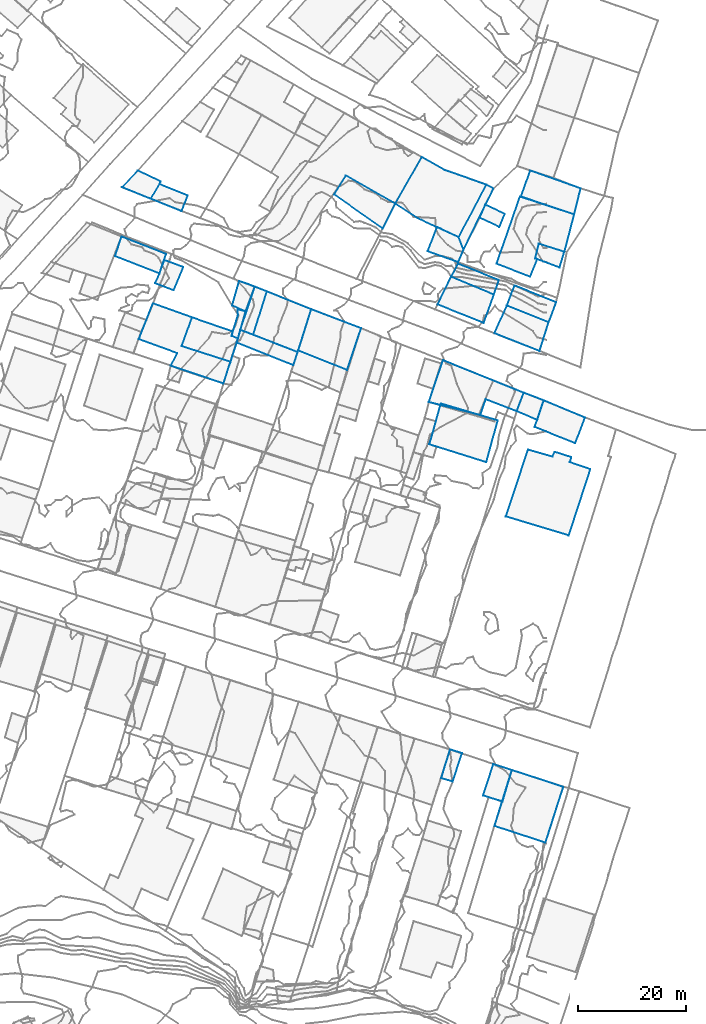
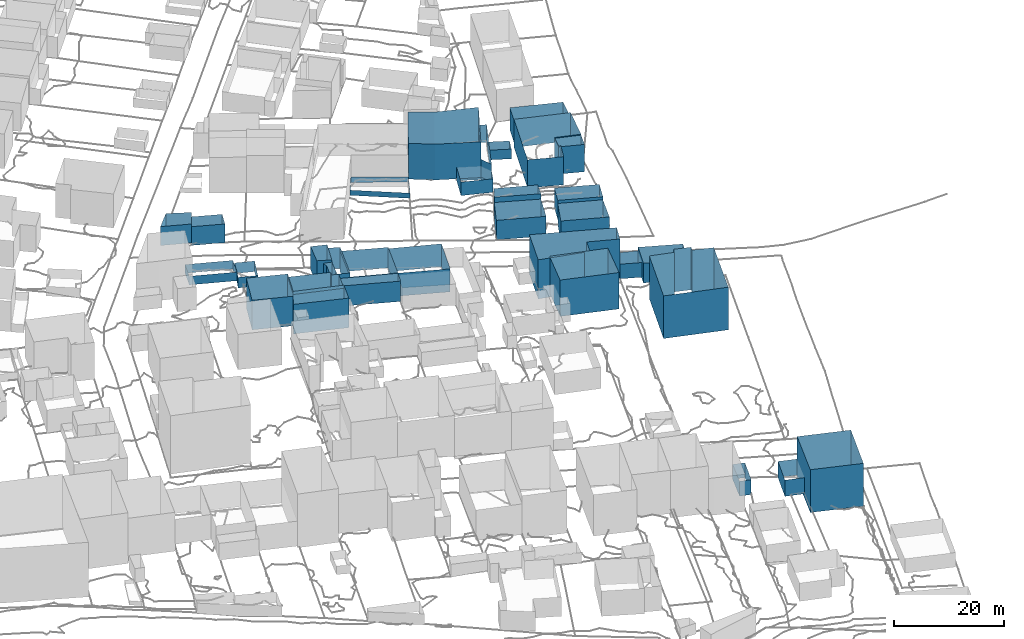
# Not in any storey, part 41 of 419: 32 walls.
"""IFC2X3 model written with IfcOpenShell, lengths in metres."""

from ifc_helpers import new_model, si_unit, frame, origin_with_axes, place, context, subcontext, project, faceted_brep, element, save


model = new_model("IFC2X3")

# Units and contexts
model_context = context("Model", 3, precision=1e-05, world=origin_with_axes())
body_context = subcontext(model_context, "Body", "Model", "MODEL_VIEW")
ifc_project = project(units=[si_unit("AREAUNIT", "SQUARE_METRE"), si_unit("LENGTHUNIT", "METRE")], contexts=[model_context])

# Walls
wall_1_placement = place(None, frame((909.2920204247, 193.2976909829, 76.31900177), z_axis=(0.0, 0.0, 1.0), x_axis=(1.0, 0.0, 0.0)))
element("IfcWall", 1, at=wall_1_placement, Name="Mur 0", context=body_context, shape_type="Brep", body=[
    faceted_brep([(0.0, 0.0, 5.68099823), (1.9, 5.2999999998, 5.68099823), (0.0, 0.0, 0.0), (1.9, 5.2999999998, 0.0), (9.0, -2.9000000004, 5.68099823), (9.0, -2.9000000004, 0.0), (10.4, 1.3999999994, 5.68099823), (10.4, 1.3999999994, 0.0), (9.2000000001, 1.8999999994, 5.68099823), (9.2000000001, 1.8999999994, 0.0), (9.4, 2.6999999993, 5.68099823), (9.4, 2.6999999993, 0.0)], [[[0, 1, 2]], [[2, 1, 3]], [[4, 0, 5]], [[5, 0, 2]], [[6, 4, 7]], [[7, 4, 5]], [[8, 6, 9]], [[9, 6, 7]], [[1, 10, 3]], [[3, 10, 11]], [[10, 8, 11]], [[11, 8, 9]]]),
])
wall_2_placement = place(None, frame((898.2920204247, 222.5976909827, 78.9779991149), z_axis=(0.0, 0.0, 1.0), x_axis=(1.0, 0.0, 0.0)))
element("IfcWall", 2, at=wall_2_placement, Name="Mur 0", context=body_context, shape_type="Brep", body=[
    faceted_brep([(7.1000000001, 1.0999999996, 4.2220008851), (6.9, 0.5999999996, 4.2220008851), (7.1000000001, 1.0999999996, 0.0), (6.9, 0.5999999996, 0.0), (2.9, 3.0999999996, 4.2220008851), (2.9, 3.0999999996, 0.0), (0.0, 0.0, 4.2220008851), (0.0, 0.0, 0.0), (5.3, -2.1000000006, 4.2220008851), (5.3, -2.1000000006, 0.0)], [[[0, 1, 2]], [[2, 1, 3]], [[4, 0, 5]], [[5, 0, 2]], [[6, 4, 7]], [[7, 4, 5]], [[1, 8, 3]], [[3, 8, 9]], [[8, 6, 9]], [[9, 6, 7]]]),
])
wall_3_placement = place(None, frame((903.5920204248, 220.4976909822, 78.4268002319), z_axis=(0.0, 0.0, 1.0), x_axis=(1.0, 0.0, 0.0)))
element("IfcWall", 3, at=wall_3_placement, Name="Mur 0", context=body_context, shape_type="Brep", body=[
    faceted_brep([(6.8, 0.6000000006, 4.1731997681), (5.7, -2.2999999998, 4.1731997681), (6.8, 0.6000000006, 0.0), (5.7, -2.2999999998, 0.0), (1.6, 2.7000000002, 4.1731997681), (1.6, 2.7000000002, 0.0), (0.0, 0.0, 4.1731997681), (0.0, 0.0, 0.0)], [[[0, 1, 2]], [[2, 1, 3]], [[4, 0, 5]], [[5, 0, 2]], [[1, 6, 3]], [[3, 6, 7]], [[6, 4, 7]], [[7, 4, 5]]]),
])
wall_4_placement = place(None, frame((930.7920204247, 192.4976909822, 74.588999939), z_axis=(0.0, 0.0, 1.0), x_axis=(1.0, 0.0, 0.0)))
element("IfcWall", 4, at=wall_4_placement, Name="Mur 0", context=body_context, shape_type="Brep", body=[
    faceted_brep([(0.0, 0.0, 5.111000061), (2.4, 7.6000000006, 5.111000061), (0.0, 0.0, 0.0), (2.4, 7.6000000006, 0.0), (9.0, -3.5999999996, 5.111000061), (9.0, -3.5999999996, 0.0), (11.6000000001, 4.1000000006, 5.111000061), (11.6000000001, 4.1000000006, 0.0)], [[[0, 1, 2]], [[2, 1, 3]], [[4, 0, 5]], [[5, 0, 2]], [[1, 6, 3]], [[3, 6, 7]], [[6, 4, 7]], [[7, 4, 5]]]),
])
wall_5_placement = place(None, frame((937.3920204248, 221.2976909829, 77.2576004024), z_axis=(0.0, 0.0, 1.0), x_axis=(1.0, 0.0, 0.0)))
element("IfcWall", 5, at=wall_5_placement, Name="Mur 0", context=body_context, shape_type="Brep", body=[
    faceted_brep([(2.2, 3.5, 1.1423995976), (11.2999999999, -1.7000000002, 1.1423995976), (2.2, 3.5, 0.0), (11.2999999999, -1.7000000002, 0.0), (0.0, 0.0, 1.1423995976), (0.0, 0.0, 0.0), (9.0, -6.3000000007, 1.1423995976), (9.0, -6.3000000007, 0.0)], [[[0, 1, 2]], [[2, 1, 3]], [[4, 0, 5]], [[5, 0, 2]], [[1, 6, 3]], [[3, 6, 7]], [[6, 4, 7]], [[7, 4, 5]]]),
])
wall_6_placement = place(None, frame((966.9920204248, 104.7976909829, 66.9700019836), z_axis=(0.0, 0.0, 1.0), x_axis=(1.0, 0.0, 0.0)))
element("IfcWall", 6, at=wall_6_placement, Name="Mur 0", context=body_context, shape_type="Brep", body=[
    faceted_brep([(3.2, 10.2999999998, 9.5299980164), (12.7, 7.1999999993, 9.5299980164), (3.2, 10.2999999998, 0.0), (12.7, 7.1999999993, 0.0), (0.0, 0.0, 9.5299980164), (0.0, 0.0, 0.0), (9.4, -3.1000000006, 9.5299980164), (9.4, -3.1000000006, 0.0)], [[[0, 1, 2]], [[2, 1, 3]], [[4, 0, 5]], [[5, 0, 2]], [[1, 6, 3]], [[3, 6, 7]], [[6, 4, 7]], [[7, 4, 5]]]),
])
wall_7_placement = place(None, frame((969.0920204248, 161.8976909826, 70.3125), z_axis=(0.0, 0.0, 1.0), x_axis=(1.0, 0.0, 0.0)))
element("IfcWall", 7, at=wall_7_placement, Name="Mur 0", context=body_context, shape_type="Brep", body=[
    faceted_brep([(11.8, 10.0, 9.4875), (15.6, 8.7000000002, 9.4875), (11.8, 10.0, 0.0), (15.6, 8.7000000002, 0.0), (12.1, 10.9000000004, 9.4875), (12.1, 10.9000000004, 0.0), (9.0, 11.9000000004, 9.4875), (9.0, 11.9000000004, 0.0), (8.6, 11.0, 9.4875), (8.6, 11.0, 0.0), (4.1, 12.2999999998, 9.4875), (4.1, 12.2999999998, 0.0), (0.0, 0.0, 9.4875), (0.0, 0.0, 0.0), (11.6, -3.5, 9.4875), (11.6, -3.5, 0.0)], [[[0, 1, 2]], [[2, 1, 3]], [[4, 0, 5]], [[5, 0, 2]], [[6, 4, 7]], [[7, 4, 5]], [[8, 6, 9]], [[9, 6, 7]], [[10, 8, 11]], [[11, 8, 9]], [[12, 10, 13]], [[13, 10, 11]], [[1, 14, 3]], [[3, 14, 15]], [[14, 12, 15]], [[15, 12, 13]]]),
])
wall_8_placement = place(None, frame((904.3920204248, 204.8976909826, 78.1399993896), z_axis=(0.0, 0.0, 1.0), x_axis=(1.0, 0.0, 0.0)))
element("IfcWall", 8, at=wall_8_placement, Name="Mur 0", context=body_context, shape_type="Brep", body=[
    faceted_brep([(0.0, 0.0, 2.3600006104), (0.7999999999, 1.7999999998, 2.3600006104), (0.0, 0.0, 0.0), (0.7999999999, 1.7999999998, 0.0), (3.3999999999, -1.2999999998, 2.3600006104), (3.3999999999, -1.2999999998, 0.0), (5.2, 3.0, 2.3600006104), (5.2, 3.0, 0.0), (1.7, 4.2999999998, 2.3600006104), (1.7, 4.2999999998, 0.0)], [[[0, 1, 2]], [[2, 1, 3]], [[4, 0, 5]], [[5, 0, 2]], [[6, 4, 7]], [[7, 4, 5]], [[1, 8, 3]], [[3, 8, 9]], [[8, 6, 9]], [[9, 6, 7]]]),
])
wall_9_placement = place(None, frame((896.9920204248, 209.8976909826, 78.3790014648), z_axis=(0.0, 0.0, 1.0), x_axis=(1.0, 0.0, 0.0)))
element("IfcWall", 9, at=wall_9_placement, Name="Mur 0", context=body_context, shape_type="Brep", body=[
    faceted_brep([(0.0, 0.0, 1.9209985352), (1.2, 3.5999999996, 1.9209985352), (0.0, 0.0, 0.0), (1.2, 3.5999999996, 0.0), (8.2, -3.2000000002, 1.9209985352), (8.2, -3.2000000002, 0.0), (9.4, 0.4000000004, 1.9209985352), (9.4, 0.4000000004, 0.0)], [[[0, 1, 2]], [[2, 1, 3]], [[4, 0, 5]], [[5, 0, 2]], [[1, 6, 3]], [[3, 6, 7]], [[6, 4, 7]], [[7, 4, 5]]]),
])
wall_10_placement = place(None, frame((954.6920204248, 210.7976909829, 77.4896006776), z_axis=(0.0, 0.0, 1.0), x_axis=(1.0, 0.0, 0.0)))
element("IfcWall", 10, at=wall_10_placement, Name="Mur 0", context=body_context, shape_type="Brep", body=[
    faceted_brep([(6.6, 0.2999999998, 3.0103993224), (5.6, -2.0, 3.0103993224), (6.6, 0.2999999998, 0.0), (5.6, -2.0, 0.0), (5.7000000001, 2.5999999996, 3.0103993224), (5.7000000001, 2.5999999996, 0.0), (1.7000000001, 4.5, 3.0103993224), (1.7000000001, 4.5, 0.0), (0.0, 0.0, 3.0103993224), (0.0, 0.0, 0.0)], [[[0, 1, 2]], [[2, 1, 3]], [[4, 0, 5]], [[5, 0, 2]], [[6, 4, 7]], [[7, 4, 5]], [[1, 8, 3]], [[3, 8, 9]], [[8, 6, 9]], [[9, 6, 7]]]),
])
wall_11_placement = place(None, frame((964.2920204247, 216.9976909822, 78.3328025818), z_axis=(0.0, 0.0, 1.0), x_axis=(1.0, 0.0, 0.0)))
element("IfcWall", 11, at=wall_11_placement, Name="Mur 0", context=body_context, shape_type="Brep", body=[
    faceted_brep([(0.0, 0.0, 2.1671974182), (1.0, 2.4000000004, 2.1671974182), (0.0, 0.0, 0.0), (1.0, 2.4000000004, 0.0), (3.6000000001, -1.6999999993, 2.1671974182), (3.6000000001, -1.6999999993, 0.0), (4.6000000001, 0.7000000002, 2.1671974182), (4.6000000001, 0.7000000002, 0.0)], [[[0, 1, 2]], [[2, 1, 3]], [[4, 0, 5]], [[5, 0, 2]], [[1, 6, 3]], [[3, 6, 7]], [[6, 4, 7]], [[7, 4, 5]]]),
])
wall_12_placement = place(None, frame((960.3920204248, 213.3976909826, 78.0435987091), z_axis=(0.0, 0.0, 1.0), x_axis=(1.0, 0.0, 0.0)))
element("IfcWall", 12, at=wall_12_placement, Name="Mur 0", context=body_context, shape_type="Brep", body=[
    faceted_brep([(0.0, 0.0, 3.9564012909), (5.1, 9.7000000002, 3.9564012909), (0.0, 0.0, 0.0), (5.1, 9.7000000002, 0.0), (0.8999999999, -2.2999999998, 3.9564012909), (0.8999999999, -2.2999999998, 0.0), (6.3999999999, 9.0, 3.9564012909), (6.3999999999, 9.0, 0.0)], [[[0, 1, 2]], [[2, 1, 3]], [[4, 0, 5]], [[5, 0, 2]], [[1, 6, 3]], [[3, 6, 7]], [[6, 4, 7]], [[7, 4, 5]]]),
])
wall_13_placement = place(None, frame((971.8920204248, 220.8976909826, 76.4740020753), z_axis=(0.0, 0.0, 1.0), x_axis=(1.0, 0.0, 0.0)))
element("IfcWall", 13, at=wall_13_placement, Name="Mur 0", context=body_context, shape_type="Brep", body=[
    faceted_brep([(1.7, 4.7999999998, 4.9259979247), (11.0, 1.5, 4.9259979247), (1.7, 4.7999999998, 0.0), (11.0, 1.5, 0.0), (0.0, 0.0, 4.9259979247), (0.0, 0.0, 0.0), (9.7999999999, -3.2999999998, 4.9259979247), (9.7999999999, -3.2999999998, 0.0)], [[[0, 1, 2]], [[2, 1, 3]], [[4, 0, 5]], [[5, 0, 2]], [[1, 6, 3]], [[3, 6, 7]], [[6, 4, 7]], [[7, 4, 5]]]),
])
wall_14_placement = place(None, frame((971.0920204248, 181.2976909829, 71.1359985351), z_axis=(0.0, 0.0, 1.0), x_axis=(1.0, 0.0, 0.0)))
element("IfcWall", 14, at=wall_14_placement, Name="Mur 0", context=body_context, shape_type="Brep", body=[
    faceted_brep([(0.0, 0.0, 3.2640014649), (1.3, 3.3999999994, 3.2640014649), (0.0, 0.0, 0.0), (1.3, 3.3999999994, 0.0), (3.8, -1.6000000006, 3.2640014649), (3.8, -1.6000000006, 0.0), (5.0, 2.0, 3.2640014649), (5.0, 2.0, 0.0)], [[[0, 1, 2]], [[2, 1, 3]], [[4, 0, 5]], [[5, 0, 2]], [[1, 6, 3]], [[3, 6, 7]], [[6, 4, 7]], [[7, 4, 5]]]),
])
wall_15_placement = place(None, frame((918.4920204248, 195.1976909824, 76.8913980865), z_axis=(0.0, 0.0, 1.0), x_axis=(1.0, 0.0, 0.0)))
element("IfcWall", 15, at=wall_15_placement, Name="Mur 0", context=body_context, shape_type="Brep", body=[
    faceted_brep([(1.2, 3.9000000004, 4.3086019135), (1.1, 4.9000000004, 4.3086019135), (1.2, 3.9000000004, 0.0), (1.1, 4.9000000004, 0.0), (0.0, 0.0, 4.3086019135), (0.0, 0.0, 0.0), (1.2, -0.5, 4.3086019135), (1.2, -0.5, 0.0), (2.6, 4.5, 4.3086019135), (2.6, 4.5, 0.0)], [[[0, 1, 2]], [[2, 1, 3]], [[4, 0, 5]], [[5, 0, 2]], [[6, 4, 7]], [[7, 4, 5]], [[1, 8, 3]], [[3, 8, 9]], [[8, 6, 9]], [[9, 6, 7]]]),
])
wall_16_placement = place(None, frame((918.5920204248, 200.7976909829, 76.5183987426), z_axis=(0.0, 0.0, 1.0), x_axis=(1.0, 0.0, 0.0)))
element("IfcWall", 16, at=wall_16_placement, Name="Mur 0", context=body_context, shape_type="Brep", body=[
    faceted_brep([(0.0, 0.0, 5.1816012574), (1.3, 4.5, 5.1816012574), (0.0, 0.0, 0.0), (1.3, 4.5, 0.0), (2.5, -1.1000000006, 5.1816012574), (2.5, -1.1000000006, 0.0), (4.2, 3.5, 5.1816012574), (4.2, 3.5, 0.0)], [[[0, 1, 2]], [[2, 1, 3]], [[4, 0, 5]], [[5, 0, 2]], [[1, 6, 3]], [[3, 6, 7]], [[6, 4, 7]], [[7, 4, 5]]]),
])
wall_17_placement = place(None, frame((954.8920204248, 182.9976909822, 71.304499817), z_axis=(0.0, 0.0, 1.0), x_axis=(1.0, 0.0, 0.0)))
element("IfcWall", 17, at=wall_17_placement, Name="Mur 0", context=body_context, shape_type="Brep", body=[
    faceted_brep([(0.0, 0.0, 8.695500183), (2.6, 7.7000000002, 8.695500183), (0.0, 0.0, 0.0), (2.6, 7.7000000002, 0.0), (9.5, -2.3999999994, 8.695500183), (9.5, -2.3999999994, 0.0), (10.5, 0.5, 8.695500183), (10.5, 0.5, 0.0), (16.2, -1.6999999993, 8.695500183), (16.2, -1.6999999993, 0.0), (17.5, 1.7000000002, 8.695500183), (17.5, 1.7000000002, 0.0)], [[[0, 1, 2]], [[2, 1, 3]], [[4, 0, 5]], [[5, 0, 2]], [[6, 4, 7]], [[7, 4, 5]], [[8, 6, 9]], [[9, 6, 7]], [[1, 10, 3]], [[3, 10, 11]], [[10, 8, 11]], [[11, 8, 9]]]),
])
wall_18_placement = place(None, frame((919.3920204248, 193.9976909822, 75.3839996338), z_axis=(0.0, 0.0, 1.0), x_axis=(1.0, 0.0, 0.0)))
element("IfcWall", 18, at=wall_18_placement, Name="Mur 0", context=body_context, shape_type="Brep", body=[
    faceted_brep([(0.0, 0.0, 4.5160003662), (0.2999999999, 0.7000000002, 4.5160003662), (0.0, 0.0, 0.0), (0.2999999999, 0.7000000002, 0.0), (10.5, -4.1999999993, 4.5160003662), (10.5, -4.1999999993, 0.0), (11.2999999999, -1.7999999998, 4.5160003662), (11.2999999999, -1.7999999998, 0.0), (0.7, 2.3000000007, 4.5160003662), (0.7, 2.3000000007, 0.0)], [[[0, 1, 2]], [[2, 1, 3]], [[4, 0, 5]], [[5, 0, 2]], [[6, 4, 7]], [[7, 4, 5]], [[1, 8, 3]], [[3, 8, 9]], [[8, 6, 9]], [[9, 6, 7]]]),
])
wall_19_placement = place(None, frame((969.2920204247, 200.7976909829, 73.1272024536), z_axis=(0.0, 0.0, 1.0), x_axis=(1.0, 0.0, 0.0)))
element("IfcWall", 19, at=wall_19_placement, Name="Mur 0", context=body_context, shape_type="Brep", body=[
    faceted_brep([(9.1000000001, 0.5999999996, 4.2727975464), (7.7000000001, -3.1000000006, 4.2727975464), (9.1000000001, 0.5999999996, 0.0), (7.7000000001, -3.1000000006, 0.0), (1.4, 3.6999999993, 4.2727975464), (1.4, 3.6999999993, 0.0), (0.0, 0.0, 4.2727975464), (0.0, 0.0, 0.0)], [[[0, 1, 2]], [[2, 1, 3]], [[4, 0, 5]], [[5, 0, 2]], [[1, 6, 3]], [[3, 6, 7]], [[6, 4, 7]], [[7, 4, 5]]]),
])
wall_20_placement = place(None, frame((966.9920204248, 195.6976909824, 72.0699989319), z_axis=(0.0, 0.0, 1.0), x_axis=(1.0, 0.0, 0.0)))
element("IfcWall", 20, at=wall_20_placement, Name="Mur 0", context=body_context, shape_type="Brep", body=[
    faceted_brep([(10.0, 2.0, 4.6300010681), (8.2999999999, -3.2999999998, 4.6300010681), (10.0, 2.0, 0.0), (8.2999999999, -3.2999999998, 0.0), (2.2999999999, 5.1000000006, 4.6300010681), (2.2999999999, 5.1000000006, 0.0), (0.0, 0.0, 4.6300010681), (0.0, 0.0, 0.0)], [[[0, 1, 2]], [[2, 1, 3]], [[4, 0, 5]], [[5, 0, 2]], [[1, 6, 3]], [[3, 6, 7]], [[6, 4, 7]], [[7, 4, 5]]]),
])
wall_21_placement = place(None, frame((974.3920204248, 178.3976909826, 70.8199996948), z_axis=(0.0, 0.0, 1.0), x_axis=(1.0, 0.0, 0.0)))
element("IfcWall", 21, at=wall_21_placement, Name="Mur 0", context=body_context, shape_type="Brep", body=[
    faceted_brep([(0.0, 0.0, 4.3800003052), (1.7, 4.9000000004, 4.3800003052), (0.0, 0.0, 0.0), (1.7, 4.9000000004, 0.0), (7.5, -3.0, 4.3800003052), (7.5, -3.0, 0.0), (9.2999999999, 1.7000000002, 4.3800003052), (9.2999999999, 1.7000000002, 0.0)], [[[0, 1, 2]], [[2, 1, 3]], [[4, 0, 5]], [[5, 0, 2]], [[1, 6, 3]], [[3, 6, 7]], [[6, 4, 7]], [[7, 4, 5]]]),
])
wall_22_placement = place(None, frame((948.6920204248, 219.5976909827, 77.9420021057), z_axis=(0.0, 0.0, 1.0), x_axis=(1.0, 0.0, 0.0)))
element("IfcWall", 22, at=wall_22_placement, Name="Mur 0", context=body_context, shape_type="Brep", body=[
    faceted_brep([(0.0, 0.0, 7.9579978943), (4.9, 8.5999999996, 7.9579978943), (0.0, 0.0, 0.0), (4.9, 8.5999999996, 0.0), (4.1, -2.7000000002, 7.9579978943), (4.1, -2.7000000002, 0.0), (11.7000000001, -6.2000000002, 7.9579978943), (11.7000000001, -6.2000000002, 0.0), (16.8, 3.5, 7.9579978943), (16.8, 3.5, 0.0), (9.1, 6.2000000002, 7.9579978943), (9.1, 6.2000000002, 0.0)], [[[0, 1, 2]], [[2, 1, 3]], [[4, 0, 5]], [[5, 0, 2]], [[6, 4, 7]], [[7, 4, 5]], [[8, 6, 9]], [[9, 6, 7]], [[1, 10, 3]], [[3, 10, 11]], [[10, 8, 11]], [[11, 8, 9]]]),
])
wall_23_placement = place(None, frame((957.1920204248, 113.5976909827, 68.7071984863), z_axis=(0.0, 0.0, 1.0), x_axis=(1.0, 0.0, 0.0)))
element("IfcWall", 23, at=wall_23_placement, Name="Mur 0", context=body_context, shape_type="Brep", body=[
    faceted_brep([(1.6, 5.2999999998, 3.2928015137), (3.8, 4.5999999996, 3.2928015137), (1.6, 5.2999999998, 0.0), (3.8, 4.5999999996, 0.0), (0.0, 0.0, 3.2928015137), (0.0, 0.0, 0.0), (2.1, -0.6000000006, 3.2928015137), (2.1, -0.6000000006, 0.0)], [[[0, 1, 2]], [[2, 1, 3]], [[4, 0, 5]], [[5, 0, 2]], [[1, 6, 3]], [[3, 6, 7]], [[6, 4, 7]], [[7, 4, 5]]]),
])
wall_24_placement = place(None, frame((958.9920204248, 206.0976909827, 73.0903997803), z_axis=(0.0, 0.0, 1.0), x_axis=(1.0, 0.0, 0.0)))
element("IfcWall", 24, at=wall_24_placement, Name="Mur 0", context=body_context, shape_type="Brep", body=[
    faceted_brep([(0.0, 0.0, 5.4096002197), (1.2999999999, 2.3999999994, 5.4096002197), (0.0, 0.0, 0.0), (1.2999999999, 2.3999999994, 0.0), (7.9, -3.2999999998, 5.4096002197), (7.9, -3.2999999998, 0.0), (8.7999999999, -0.6000000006, 5.4096002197), (8.7999999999, -0.6000000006, 0.0)], [[[0, 1, 2]], [[2, 1, 3]], [[4, 0, 5]], [[5, 0, 2]], [[1, 6, 3]], [[3, 6, 7]], [[6, 4, 7]], [[7, 4, 5]]]),
])
wall_25_placement = place(None, frame((974.4920204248, 209.4976909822, 76.1332025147), z_axis=(0.0, 0.0, 1.0), x_axis=(1.0, 0.0, 0.0)))
element("IfcWall", 25, at=wall_25_placement, Name="Mur 0", context=body_context, shape_type="Brep", body=[
    faceted_brep([(0.7, 2.7000000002, 6.0667974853), (5.4, 1.2000000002, 6.0667974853), (0.7, 2.7000000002, 0.0), (5.4, 1.2000000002, 0.0), (0.0, 0.0, 6.0667974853), (0.0, 0.0, 0.0), (4.5, -1.6999999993, 6.0667974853), (4.5, -1.6999999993, 0.0)], [[[0, 1, 2]], [[2, 1, 3]], [[4, 0, 5]], [[5, 0, 2]], [[1, 6, 3]], [[3, 6, 7]], [[6, 4, 7]], [[7, 4, 5]]]),
])
wall_26_placement = place(None, frame((967.3920204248, 208.4976909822, 76.1332025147), z_axis=(0.0, 0.0, 1.0), x_axis=(1.0, 0.0, 0.0)))
element("IfcWall", 26, at=wall_26_placement, Name="Mur 0", context=body_context, shape_type="Brep", body=[
    faceted_brep([(4.2999999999, 12.4000000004, 6.2667974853), (14.2999999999, 9.1000000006, 6.2667974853), (4.2999999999, 12.4000000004, 0.0), (14.2999999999, 9.1000000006, 0.0), (0.0, 0.0, 6.2667974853), (0.0, 0.0, 0.0), (6.2, -2.3999999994, 6.2667974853), (6.2, -2.3999999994, 0.0), (7.5, 0.9000000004, 6.2667974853), (7.5, 0.9000000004, 0.0), (7.1, 1.0, 6.2667974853), (7.1, 1.0, 0.0), (7.7999999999, 3.7000000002, 6.2667974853), (7.7999999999, 3.7000000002, 0.0), (12.5, 2.2000000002, 6.2667974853), (12.5, 2.2000000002, 0.0)], [[[0, 1, 2]], [[2, 1, 3]], [[4, 0, 5]], [[5, 0, 2]], [[6, 4, 7]], [[7, 4, 5]], [[8, 6, 9]], [[9, 6, 7]], [[10, 8, 11]], [[11, 8, 9]], [[12, 10, 13]], [[13, 10, 11]], [[1, 14, 3]], [[3, 14, 15]], [[14, 12, 15]], [[15, 12, 13]]]),
])
wall_27_placement = place(None, frame((956.4920204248, 200.9976909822, 72.9532003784), z_axis=(0.0, 0.0, 1.0), x_axis=(1.0, 0.0, 0.0)))
element("IfcWall", 27, at=wall_27_placement, Name="Mur 0", context=body_context, shape_type="Brep", body=[
    faceted_brep([(0.0, 0.0, 4.3467996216), (2.5, 5.1000000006, 4.3467996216), (0.0, 0.0, 0.0), (2.5, 5.1000000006, 0.0), (8.5, -3.3999999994, 4.3467996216), (8.5, -3.3999999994, 0.0), (10.4, 1.8000000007, 4.3467996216), (10.4, 1.8000000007, 0.0)], [[[0, 1, 2]], [[2, 1, 3]], [[4, 0, 5]], [[5, 0, 2]], [[1, 6, 3]], [[3, 6, 7]], [[6, 4, 7]], [[7, 4, 5]]]),
])
wall_28_placement = place(None, frame((954.9920204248, 175.1976909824, 72.0975009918), z_axis=(0.0, 0.0, 1.0), x_axis=(1.0, 0.0, 0.0)))
element("IfcWall", 28, at=wall_28_placement, Name="Mur 0", context=body_context, shape_type="Brep", body=[
    faceted_brep([(0.0, 0.0, 8.1024990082), (2.0, 7.1000000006, 8.1024990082), (0.0, 0.0, 0.0), (2.0, 7.1000000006, 0.0), (10.5, -3.2999999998, 8.1024990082), (10.5, -3.2999999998, 0.0), (12.6, 4.4000000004, 8.1024990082), (12.6, 4.4000000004, 0.0), (2.2, 7.5, 8.1024990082), (2.2, 7.5, 0.0)], [[[0, 1, 2]], [[2, 1, 3]], [[4, 0, 5]], [[5, 0, 2]], [[6, 4, 7]], [[7, 4, 5]], [[1, 8, 3]], [[3, 8, 9]], [[8, 6, 9]], [[9, 6, 7]]]),
])
wall_29_placement = place(None, frame((964.8920204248, 110.3976909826, 67.8999998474), z_axis=(0.0, 0.0, 1.0), x_axis=(1.0, 0.0, 0.0)))
element("IfcWall", 29, at=wall_29_placement, Name="Mur 0", context=body_context, shape_type="Brep", body=[
    faceted_brep([(5.2999999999, 4.7000000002, 3.6000001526), (3.6, -1.0999999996, 3.6000001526), (5.2999999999, 4.7000000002, 0.0), (3.6, -1.0999999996, 0.0), (1.8999999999, 5.7999999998, 3.6000001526), (1.8999999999, 5.7999999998, 0.0), (0.0, 0.0, 3.6000001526), (0.0, 0.0, 0.0)], [[[0, 1, 2]], [[2, 1, 3]], [[4, 0, 5]], [[5, 0, 2]], [[1, 6, 3]], [[3, 6, 7]], [[6, 4, 7]], [[7, 4, 5]]]),
])
wall_30_placement = place(None, frame((920.0920204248, 196.2976909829, 76.1059989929), z_axis=(0.0, 0.0, 1.0), x_axis=(1.0, 0.0, 0.0)))
element("IfcWall", 30, at=wall_30_placement, Name="Mur 0", context=body_context, shape_type="Brep", body=[
    faceted_brep([(0.0, 0.0, 4.7940010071), (2.7, 8.0, 4.7940010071), (0.0, 0.0, 0.0), (2.7, 8.0, 0.0), (2.4, -0.9000000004, 4.7940010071), (2.4, -0.9000000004, 0.0), (4.9, 7.0999999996, 4.7940010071), (4.9, 7.0999999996, 0.0)], [[[0, 1, 2]], [[2, 1, 3]], [[4, 0, 5]], [[5, 0, 2]], [[1, 6, 3]], [[3, 6, 7]], [[6, 4, 7]], [[7, 4, 5]]]),
])
wall_31_placement = place(None, frame((922.4920204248, 195.3976909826, 75.4079986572), z_axis=(0.0, 0.0, 1.0), x_axis=(1.0, 0.0, 0.0)))
element("IfcWall", 31, at=wall_31_placement, Name="Mur 0", context=body_context, shape_type="Brep", body=[
    faceted_brep([(0.0, 0.0, 4.5920013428), (2.5, 8.0, 4.5920013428), (0.0, 0.0, 0.0), (2.5, 8.0, 0.0), (8.2, -3.2000000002, 4.5920013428), (8.2, -3.2000000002, 0.0), (10.7, 4.7000000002, 4.5920013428), (10.7, 4.7000000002, 0.0)], [[[0, 1, 2]], [[2, 1, 3]], [[4, 0, 5]], [[5, 0, 2]], [[1, 6, 3]], [[3, 6, 7]], [[6, 4, 7]], [[7, 4, 5]]]),
])
wall_32_placement = place(None, frame((901.3920204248, 194.5976909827, 76.1120010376), z_axis=(0.0, 0.0, 1.0), x_axis=(1.0, 0.0, 0.0)))
element("IfcWall", 32, at=wall_32_placement, Name="Mur 0", context=body_context, shape_type="Brep", body=[
    faceted_brep([(0.0, 0.0, 6.5879989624), (2.6, 6.5999999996, 6.5879989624), (0.0, 0.0, 0.0), (2.6, 6.5999999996, 0.0), (7.1, -2.6000000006, 6.5879989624), (7.1, -2.6000000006, 0.0), (5.8999999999, -4.9000000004, 6.5879989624), (5.8999999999, -4.9000000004, 0.0), (15.6, -8.2000000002, 6.5879989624), (15.6, -8.2000000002, 0.0), (16.8999999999, -4.2000000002, 6.5879989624), (16.8999999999, -4.2000000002, 0.0), (7.8999999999, -1.2999999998, 6.5879989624), (7.8999999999, -1.2999999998, 0.0), (9.7999999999, 4.0, 6.5879989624), (9.7999999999, 4.0, 0.0)], [[[0, 1, 2]], [[2, 1, 3]], [[4, 0, 5]], [[5, 0, 2]], [[6, 4, 7]], [[7, 4, 5]], [[8, 6, 9]], [[9, 6, 7]], [[10, 8, 11]], [[11, 8, 9]], [[12, 10, 13]], [[13, 10, 11]], [[1, 14, 3]], [[3, 14, 15]], [[14, 12, 15]], [[15, 12, 13]]]),
])

save(model, "model.ifc")
